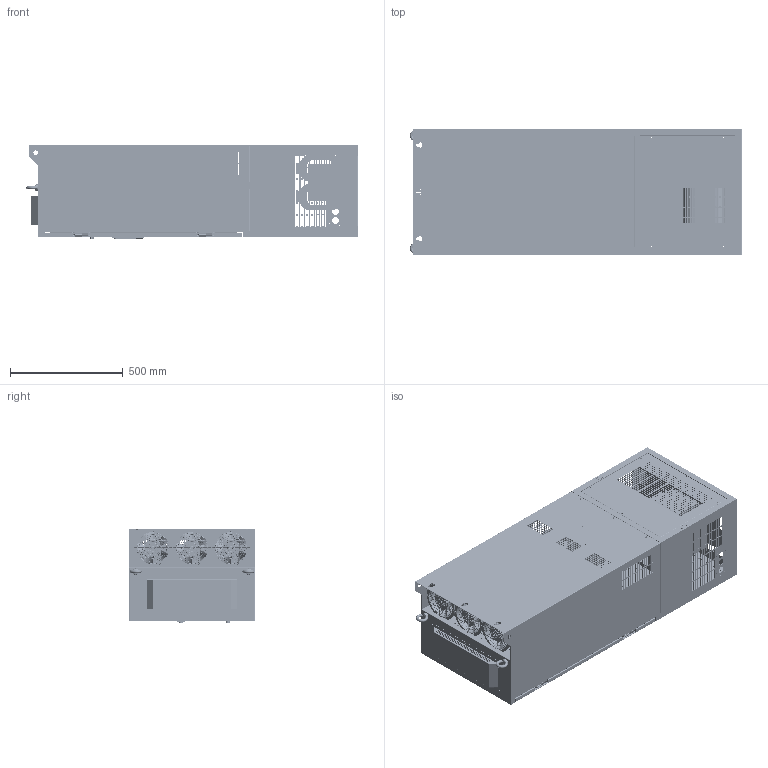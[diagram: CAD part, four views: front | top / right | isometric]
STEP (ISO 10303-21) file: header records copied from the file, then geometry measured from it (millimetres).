
FILE_DESCRIPTION((''),'2;1');
FILE_NAME('250KW_G3_3D_ASM_ASM','2022-07-18T',('Administrator'),(''),'PRO/ENGINEER BY PARAMETRIC TECHNOLOGY CORPORATION, 2009440','PRO/ENGINEER BY PARAMETRIC TECHNOLOGY CORPORATION, 2009440','');
FILE_SCHEMA(('AUTOMOTIVE_DESIGN_CC2 { 1 2 10303 214 -1 1 5 2 }'));
Products named in the file (106): MANIFOLD_SOLID_BREP_34795_1; MANIFOLD_SOLID_BREP_35052_1; MANIFOLD_SOLID_BREP_35309_1; MANIFOLD_SOLID_BREP_35566_1; MANIFOLD_SOLID_BREP_35823_1; MANIFOLD_SOLID_BREP_36080_1; MANIFOLD_SOLID_BREP_36337_1; MANIFOLD_SOLID_BREP_36594_1; MANIFOLD_SOLID_BREP_36851_1; MANIFOLD_SOLID_BREP_37108_1; MANIFOLD_SOLID_BREP_37365_1; MANIFOLD_SOLID_BREP_37622_1; MANIFOLD_SOLID_BREP_37879_1; MANIFOLD_SOLID_BREP_38136_1; MANIFOLD_SOLID_BREP_38393_1; MANIFOLD_SOLID_BREP_38650_1; MANIFOLD_SOLID_BREP_38907_1; MANIFOLD_SOLID_BREP_39164_1; MANIFOLD_SOLID_BREP_39421_1; 5G3XX3F001_20_ASM_1_ASM; MANIFOLD_SOLID_BREP_48939_1; MANIFOLD_SOLID_BREP_49196_1; MANIFOLD_SOLID_BREP_49453_1; MANIFOLD_SOLID_BREP_49710_1; 5G3XX3F003_12_ASM_1_ASM; 5G3XX3F004_5_1; MANIFOLD_SOLID_BREP_51611; MANIFOLD_SOLID_BREP_58337; MANIFOLD_SOLID_BREP_73556_1_ASM; 5G3XX3F005-B_38_ASM_1_ASM; 5G3XX2F002_ASM_28_ASM_1_ASM; 5G3XX2F001_ASM_41_ASM_1_ASM; MANIFOLD_SOLID_BREP_158437_1; MANIFOLD_SOLID_BREP_158639_1; MANIFOLD_SOLID_BREP_158841_1; MANIFOLD_SOLID_BREP_159043_1; MANIFOLD_SOLID_BREP_159245_1; MANIFOLD_SOLID_BREP_159447_1; MANIFOLD_SOLID_BREP_159649_1; 5G3XX3F014-B_10_ASM_1_ASM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
Assembly tree (119 placements, depth 9):
  250KW_G3_3D_ASM_ASM
    250KW_G3_3D_ASM_ASM_1_ASM
      250KW_G3_3D_ASM_182_ASM_1_ASM
        5G3XX1F001_ASM_66_ASM_1_ASM
          5G3XX2F001_ASM_41_ASM_1_ASM
            5G3XX3F001_20_ASM_1_ASM
              MANIFOLD_SOLID_BREP_34795_1
              MANIFOLD_SOLID_BREP_35052_1
              MANIFOLD_SOLID_BREP_35309_1
              MANIFOLD_SOLID_BREP_35566_1
              MANIFOLD_SOLID_BREP_35823_1
              MANIFOLD_SOLID_BREP_36080_1
              MANIFOLD_SOLID_BREP_36337_1
              MANIFOLD_SOLID_BREP_36594_1
              MANIFOLD_SOLID_BREP_36851_1
              MANIFOLD_SOLID_BREP_37108_1
              MANIFOLD_SOLID_BREP_37365_1
              MANIFOLD_SOLID_BREP_37622_1
              MANIFOLD_SOLID_BREP_37879_1
              MANIFOLD_SOLID_BREP_38136_1
              MANIFOLD_SOLID_BREP_38393_1
              MANIFOLD_SOLID_BREP_38650_1
              MANIFOLD_SOLID_BREP_38907_1
              MANIFOLD_SOLID_BREP_39164_1
              MANIFOLD_SOLID_BREP_39421_1
            5G3XX3F003_12_ASM_1_ASM
              MANIFOLD_SOLID_BREP_48939_1
              MANIFOLD_SOLID_BREP_49196_1
              MANIFOLD_SOLID_BREP_49453_1
              MANIFOLD_SOLID_BREP_49710_1
            5G3XX3F004_5_1  x2
            5G3XX2F002_ASM_28_ASM_1_ASM
              5G3XX3F005-B_38_ASM_1_ASM
                MANIFOLD_SOLID_BREP_73556_1_ASM
                  MANIFOLD_SOLID_BREP_51611
                  MANIFOLD_SOLID_BREP_58337
          5G3XX3F014-B_10_ASM_1_ASM
            MANIFOLD_SOLID_BREP_158437_1
            MANIFOLD_SOLID_BREP_158639_1
            MANIFOLD_SOLID_BREP_158841_1
            MANIFOLD_SOLID_BREP_159043_1
            MANIFOLD_SOLID_BREP_159245_1
            MANIFOLD_SOLID_BREP_159447_1
            MANIFOLD_SOLID_BREP_159649_1
          5G3XX3F026_16_1
          5G3XX3F028_4_1
          5G3XX2F004_ASM_6_ASM_1_ASM
            5G3XX3F030_11_ASM_1_ASM
              MANIFOLD_SOLID_BREP_339963_1
              MANIFOLD_SOLID_BREP_340636_1
              MANIFOLD_SOLID_BREP_341309_1
              MANIFOLD_SOLID_BREP_341982_1
            5G3WZ3F031_2_ASM_1_ASM  x2
              MANIFOLD_SOLID_BREP_330212_1
              MANIFOLD_SOLID_BREP_330469_1
              MANIFOLD_SOLID_BREP_330726_1
              _5G3WZ3F031_2_1
            MS818-1S_1_1
          DH_M12_2_1  x2
          SJ-CL231-1_ASM_2_ASM_1_ASM  x4
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Bounding box: 1471 x 560 x 418.6 mm (x, y, z)
Volume: 27592669.9 mm3; surface area: 22791417.8 mm2
Topology: 127 solids, 151 shells, 9352 faces, 38031 edges, 33108 vertices
Faces by surface type: plane 5238, cylinder 3044, extrusion 533, bspline 222, torus 193, cone 76, sphere 44, revolution 2
Entity records: 436253 total; most frequent: CARTESIAN_POINT 93573, DIRECTION 52559, ORIENTED_EDGE 44104, VECTOR 24543, LINE 24288, EDGE_CURVE 22125, PRESENTATION_STYLE_ASSIGNMENT 19987, STYLED_ITEM 19950
